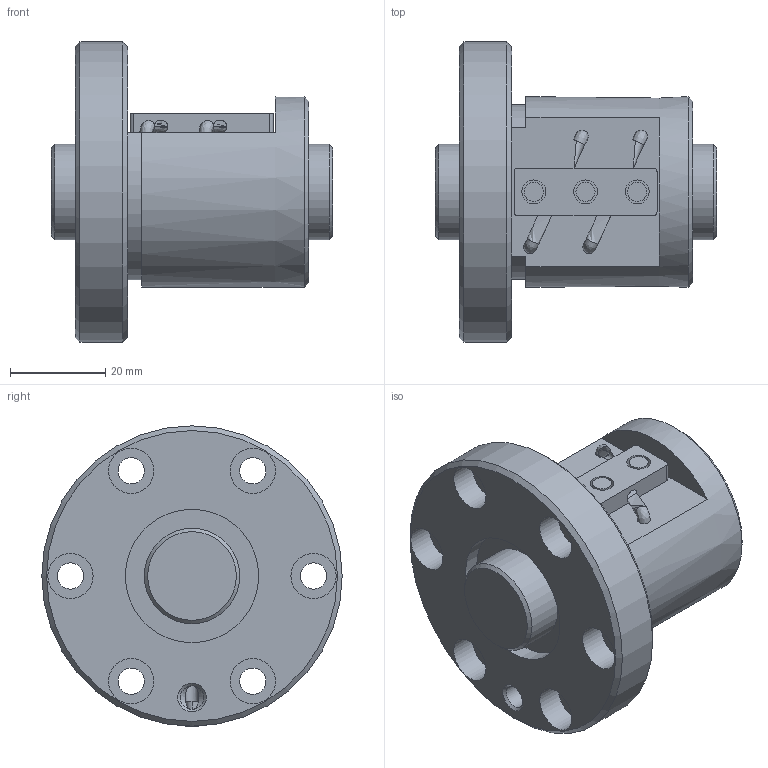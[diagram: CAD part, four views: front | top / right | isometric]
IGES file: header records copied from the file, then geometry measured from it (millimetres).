
Start section: Data from Parasolid IGES Translator 26.0.171, Copyright(c) 2006 Siemens PLM Software. All Rights Reserved.
Global section: file name: BNF2004V-5RRG1+59LC0_000_rev.igs; native system: By Siemens PLM Incorporated; preprocessor: XPlus GENERIC/IGES 26.0.171; author: Noname; organization: Noname; date: 20240806.072801; units: millimetre
Bounding box: 59 x 63 x 63 mm (x, y, z)
Surface area: 22417.6 mm2 (no closed solid volume)
Topology: 0 solids, 0 shells, 80 faces, 352 edges, 300 vertices
Faces by surface type: revolution 51, extrusion 29
